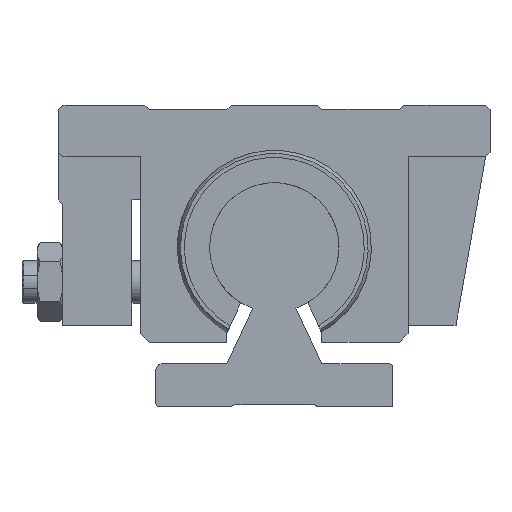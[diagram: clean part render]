
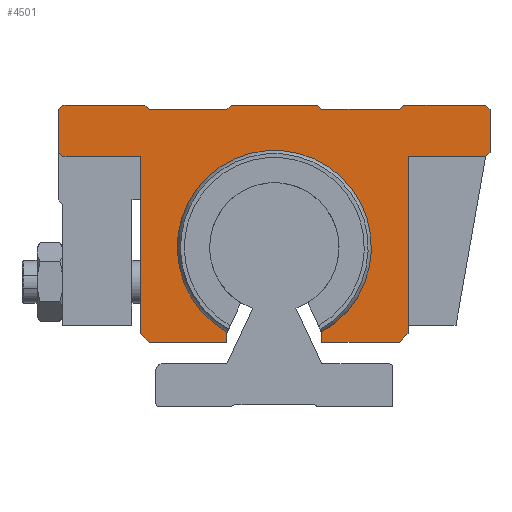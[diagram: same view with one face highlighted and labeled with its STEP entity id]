
A CAD part, left-side view. The second image highlights one B-rep face of the part: STEP entity #4501.
In plain terms, the highlighted planar face has unit normal (-1, 0, 0).
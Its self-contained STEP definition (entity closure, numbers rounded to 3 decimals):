
#4146=CARTESIAN_POINT('',(0.0,-11.,-19.628));
#4147=VERTEX_POINT('',#4146);
#4154=CARTESIAN_POINT('',(0.0,11.,-19.628));
#4155=VERTEX_POINT('',#4154);
#4156=CARTESIAN_POINT('',(0.0,0.0,0.0));
#4157=DIRECTION('',(-1.,0.0,0.0));
#4158=DIRECTION('',(0.0,-0.489,0.872));
#4159=AXIS2_PLACEMENT_3D('',#4156,#4157,#4158);
#4160=CIRCLE('',#4159,22.5);
#4161=EDGE_CURVE('',#4147,#4155,#4160,.T.);
#4263=CARTESIAN_POINT('',(0.0,-50.0,22.0));
#4264=VERTEX_POINT('',#4263);
#4271=CARTESIAN_POINT('',(0.0,-49.0,21.0));
#4272=VERTEX_POINT('',#4271);
#4273=CARTESIAN_POINT('',(0.0,-50.0,22.0));
#4274=DIRECTION('',(0.0,0.707,-0.707));
#4275=VECTOR('',#4274,1.414);
#4276=LINE('',#4273,#4275);
#4277=EDGE_CURVE('',#4264,#4272,#4276,.T.);
#4304=CARTESIAN_POINT('',(0.0,-40.,32.5));
#4305=DIRECTION('',(1.0,0.0,0.0));
#4306=DIRECTION('',(0.0,0.0,-1.0));
#4307=AXIS2_PLACEMENT_3D('',#4304,#4305,#4306);
#4308=PLANE('',#4307);
#4309=ORIENTED_EDGE('',*,*,#4277,.F.);
#4310=CARTESIAN_POINT('',(0.0,-50.0,32.));
#4311=VERTEX_POINT('',#4310);
#4312=CARTESIAN_POINT('',(0.0,-50.0,32.));
#4313=DIRECTION('',(0.0,0.0,-1.0));
#4314=VECTOR('',#4313,10.);
#4315=LINE('',#4312,#4314);
#4316=EDGE_CURVE('',#4311,#4264,#4315,.T.);
#4317=ORIENTED_EDGE('',*,*,#4316,.F.);
#4318=CARTESIAN_POINT('',(0.0,-49.0,33.));
#4319=VERTEX_POINT('',#4318);
#4320=CARTESIAN_POINT('',(0.0,-49.0,33.));
#4321=DIRECTION('',(0.0,-0.707,-0.707));
#4322=VECTOR('',#4321,1.414);
#4323=LINE('',#4320,#4322);
#4324=EDGE_CURVE('',#4319,#4311,#4323,.T.);
#4325=ORIENTED_EDGE('',*,*,#4324,.F.);
#4326=CARTESIAN_POINT('',(0.0,-30.,33.0));
#4327=VERTEX_POINT('',#4326);
#4328=CARTESIAN_POINT('',(0.0,-30.,33.0));
#4329=DIRECTION('',(0.0,-1.0,0.0));
#4330=VECTOR('',#4329,19.);
#4331=LINE('',#4328,#4330);
#4332=EDGE_CURVE('',#4327,#4319,#4331,.T.);
#4333=ORIENTED_EDGE('',*,*,#4332,.F.);
#4334=CARTESIAN_POINT('',(0.0,-29.,32.));
#4335=VERTEX_POINT('',#4334);
#4336=CARTESIAN_POINT('',(0.0,-29.,32.));
#4337=DIRECTION('',(0.0,-0.707,0.707));
#4338=VECTOR('',#4337,1.414);
#4339=LINE('',#4336,#4338);
#4340=EDGE_CURVE('',#4335,#4327,#4339,.T.);
#4341=ORIENTED_EDGE('',*,*,#4340,.F.);
#4342=CARTESIAN_POINT('',(0.0,-11.,32.));
#4343=VERTEX_POINT('',#4342);
#4344=CARTESIAN_POINT('',(0.0,-11.,32.));
#4345=DIRECTION('',(0.0,-1.0,0.0));
#4346=VECTOR('',#4345,18.);
#4347=LINE('',#4344,#4346);
#4348=EDGE_CURVE('',#4343,#4335,#4347,.T.);
#4349=ORIENTED_EDGE('',*,*,#4348,.F.);
#4350=CARTESIAN_POINT('',(0.0,-10.,33.0));
#4351=VERTEX_POINT('',#4350);
#4352=CARTESIAN_POINT('',(0.0,-10.,33.0));
#4353=DIRECTION('',(0.0,-0.707,-0.707));
#4354=VECTOR('',#4353,1.414);
#4355=LINE('',#4352,#4354);
#4356=EDGE_CURVE('',#4351,#4343,#4355,.T.);
#4357=ORIENTED_EDGE('',*,*,#4356,.F.);
#4358=CARTESIAN_POINT('',(0.0,10.,33.0));
#4359=VERTEX_POINT('',#4358);
#4360=CARTESIAN_POINT('',(0.0,10.,33.0));
#4361=DIRECTION('',(0.0,-1.0,0.0));
#4362=VECTOR('',#4361,20.);
#4363=LINE('',#4360,#4362);
#4364=EDGE_CURVE('',#4359,#4351,#4363,.T.);
#4365=ORIENTED_EDGE('',*,*,#4364,.F.);
#4366=CARTESIAN_POINT('',(0.0,11.,32.));
#4367=VERTEX_POINT('',#4366);
#4368=CARTESIAN_POINT('',(0.0,11.,32.));
#4369=DIRECTION('',(0.0,-0.707,0.707));
#4370=VECTOR('',#4369,1.414);
#4371=LINE('',#4368,#4370);
#4372=EDGE_CURVE('',#4367,#4359,#4371,.T.);
#4373=ORIENTED_EDGE('',*,*,#4372,.F.);
#4374=CARTESIAN_POINT('',(0.0,29.,32.));
#4375=VERTEX_POINT('',#4374);
#4376=CARTESIAN_POINT('',(0.0,29.,32.));
#4377=DIRECTION('',(0.0,-1.0,0.0));
#4378=VECTOR('',#4377,18.);
#4379=LINE('',#4376,#4378);
#4380=EDGE_CURVE('',#4375,#4367,#4379,.T.);
#4381=ORIENTED_EDGE('',*,*,#4380,.F.);
#4382=CARTESIAN_POINT('',(0.0,30.,33.0));
#4383=VERTEX_POINT('',#4382);
#4384=CARTESIAN_POINT('',(0.0,30.,33.0));
#4385=DIRECTION('',(0.0,-0.707,-0.707));
#4386=VECTOR('',#4385,1.414);
#4387=LINE('',#4384,#4386);
#4388=EDGE_CURVE('',#4383,#4375,#4387,.T.);
#4389=ORIENTED_EDGE('',*,*,#4388,.F.);
#4390=CARTESIAN_POINT('',(0.0,49.0,33.));
#4391=VERTEX_POINT('',#4390);
#4392=CARTESIAN_POINT('',(0.0,49.0,33.));
#4393=DIRECTION('',(0.0,-1.0,0.0));
#4394=VECTOR('',#4393,19.);
#4395=LINE('',#4392,#4394);
#4396=EDGE_CURVE('',#4391,#4383,#4395,.T.);
#4397=ORIENTED_EDGE('',*,*,#4396,.F.);
#4398=CARTESIAN_POINT('',(0.0,50.0,32.));
#4399=VERTEX_POINT('',#4398);
#4400=CARTESIAN_POINT('',(0.0,50.0,32.));
#4401=DIRECTION('',(0.0,-0.707,0.707));
#4402=VECTOR('',#4401,1.414);
#4403=LINE('',#4400,#4402);
#4404=EDGE_CURVE('',#4399,#4391,#4403,.T.);
#4405=ORIENTED_EDGE('',*,*,#4404,.F.);
#4406=CARTESIAN_POINT('',(0.0,50.0,22.));
#4407=VERTEX_POINT('',#4406);
#4408=CARTESIAN_POINT('',(0.0,50.0,22.));
#4409=DIRECTION('',(0.0,0.0,1.0));
#4410=VECTOR('',#4409,10.);
#4411=LINE('',#4408,#4410);
#4412=EDGE_CURVE('',#4407,#4399,#4411,.T.);
#4413=ORIENTED_EDGE('',*,*,#4412,.F.);
#4414=CARTESIAN_POINT('',(0.0,49.0,21.0));
#4415=VERTEX_POINT('',#4414);
#4416=CARTESIAN_POINT('',(0.0,49.0,21.0));
#4417=DIRECTION('',(0.0,0.707,0.707));
#4418=VECTOR('',#4417,1.414);
#4419=LINE('',#4416,#4418);
#4420=EDGE_CURVE('',#4415,#4407,#4419,.T.);
#4421=ORIENTED_EDGE('',*,*,#4420,.F.);
#4422=CARTESIAN_POINT('',(0.0,31.,21.));
#4423=VERTEX_POINT('',#4422);
#4424=CARTESIAN_POINT('',(0.0,31.,21.));
#4425=DIRECTION('',(0.0,1.0,0.0));
#4426=VECTOR('',#4425,18.);
#4427=LINE('',#4424,#4426);
#4428=EDGE_CURVE('',#4423,#4415,#4427,.T.);
#4429=ORIENTED_EDGE('',*,*,#4428,.F.);
#4430=CARTESIAN_POINT('',(0.0,31.,-20.));
#4431=VERTEX_POINT('',#4430);
#4432=CARTESIAN_POINT('',(0.0,31.,-20.));
#4433=DIRECTION('',(0.0,0.0,1.0));
#4434=VECTOR('',#4433,41.);
#4435=LINE('',#4432,#4434);
#4436=EDGE_CURVE('',#4431,#4423,#4435,.T.);
#4437=ORIENTED_EDGE('',*,*,#4436,.F.);
#4438=CARTESIAN_POINT('',(0.0,29.,-22.));
#4439=VERTEX_POINT('',#4438);
#4440=CARTESIAN_POINT('',(0.0,29.,-22.));
#4441=DIRECTION('',(0.0,0.707,0.707));
#4442=VECTOR('',#4441,2.828);
#4443=LINE('',#4440,#4442);
#4444=EDGE_CURVE('',#4439,#4431,#4443,.T.);
#4445=ORIENTED_EDGE('',*,*,#4444,.F.);
#4446=CARTESIAN_POINT('',(0.0,11.,-22.0));
#4447=VERTEX_POINT('',#4446);
#4448=CARTESIAN_POINT('',(0.0,11.,-22.0));
#4449=DIRECTION('',(0.0,1.0,0.0));
#4450=VECTOR('',#4449,18.);
#4451=LINE('',#4448,#4450);
#4452=EDGE_CURVE('',#4447,#4439,#4451,.T.);
#4453=ORIENTED_EDGE('',*,*,#4452,.F.);
#4454=CARTESIAN_POINT('',(0.0,11.,-19.628));
#4455=DIRECTION('',(0.0,0.0,-1.0));
#4456=VECTOR('',#4455,2.372);
#4457=LINE('',#4454,#4456);
#4458=EDGE_CURVE('',#4155,#4447,#4457,.T.);
#4459=ORIENTED_EDGE('',*,*,#4458,.F.);
#4460=ORIENTED_EDGE('',*,*,#4161,.F.);
#4461=CARTESIAN_POINT('',(0.0,-11.,-22.0));
#4462=VERTEX_POINT('',#4461);
#4463=CARTESIAN_POINT('',(0.0,-11.,-22.0));
#4464=DIRECTION('',(0.0,0.0,1.0));
#4465=VECTOR('',#4464,2.372);
#4466=LINE('',#4463,#4465);
#4467=EDGE_CURVE('',#4462,#4147,#4466,.T.);
#4468=ORIENTED_EDGE('',*,*,#4467,.F.);
#4469=CARTESIAN_POINT('',(0.0,-29.,-22.));
#4470=VERTEX_POINT('',#4469);
#4471=CARTESIAN_POINT('',(0.0,-29.,-22.));
#4472=DIRECTION('',(0.0,1.0,0.0));
#4473=VECTOR('',#4472,18.);
#4474=LINE('',#4471,#4473);
#4475=EDGE_CURVE('',#4470,#4462,#4474,.T.);
#4476=ORIENTED_EDGE('',*,*,#4475,.F.);
#4477=CARTESIAN_POINT('',(0.0,-31.,-20.));
#4478=VERTEX_POINT('',#4477);
#4479=CARTESIAN_POINT('',(0.0,-31.,-20.));
#4480=DIRECTION('',(0.0,0.707,-0.707));
#4481=VECTOR('',#4480,2.828);
#4482=LINE('',#4479,#4481);
#4483=EDGE_CURVE('',#4478,#4470,#4482,.T.);
#4484=ORIENTED_EDGE('',*,*,#4483,.F.);
#4485=CARTESIAN_POINT('',(0.0,-31.,21.));
#4486=VERTEX_POINT('',#4485);
#4487=CARTESIAN_POINT('',(0.0,-31.,21.));
#4488=DIRECTION('',(0.0,0.0,-1.0));
#4489=VECTOR('',#4488,41.);
#4490=LINE('',#4487,#4489);
#4491=EDGE_CURVE('',#4486,#4478,#4490,.T.);
#4492=ORIENTED_EDGE('',*,*,#4491,.F.);
#4493=CARTESIAN_POINT('',(0.0,-49.0,21.0));
#4494=DIRECTION('',(0.0,1.0,0.0));
#4495=VECTOR('',#4494,18.);
#4496=LINE('',#4493,#4495);
#4497=EDGE_CURVE('',#4272,#4486,#4496,.T.);
#4498=ORIENTED_EDGE('',*,*,#4497,.F.);
#4499=EDGE_LOOP('',(#4309,#4317,#4325,#4333,#4341,#4349,#4357,#4365,#4373,#4381,#4389,#4397,#4405,#4413,#4421,#4429,#4437,#4445,#4453,#4459,#4460,#4468,#4476,#4484,#4492,#4498));
#4500=FACE_OUTER_BOUND('',#4499,.T.);
#4501=ADVANCED_FACE('',(#4500),#4308,.F.);
